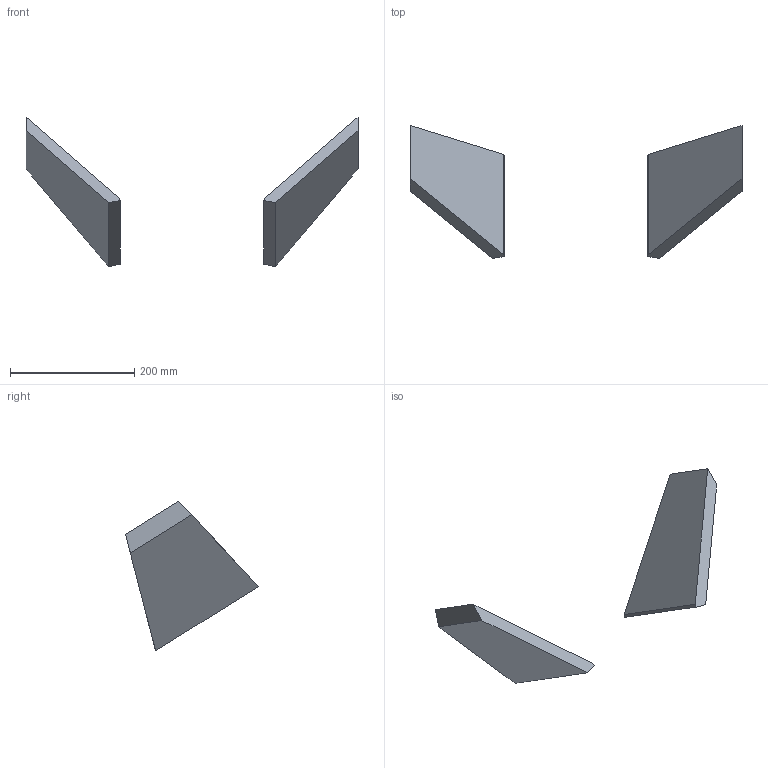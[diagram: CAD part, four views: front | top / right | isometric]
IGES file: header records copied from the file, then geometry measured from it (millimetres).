
Start section:  PTC IGES file: C:\Documents and Settings\Brad\Desktop\IGES\module_mouth _flair.igs
Global section: file name: C:\Documents and Settings\Brad\Desktop\IGES\module_mouth_flair.igs; native system: Brad by Parametric Technology Corporation; preprocessor: 2003250; author: Unknown; organization: PTC; date: 040521.142625; units: inch
Bounding box: 533.4 x 213.54 x 240.47 mm (x, y, z)
Volume: 1262785.5 mm3; surface area: 163428.4 mm2
Topology: 2 solids, 2 shells, 14 faces, 30 edges, 20 vertices
Faces by surface type: bspline 14
